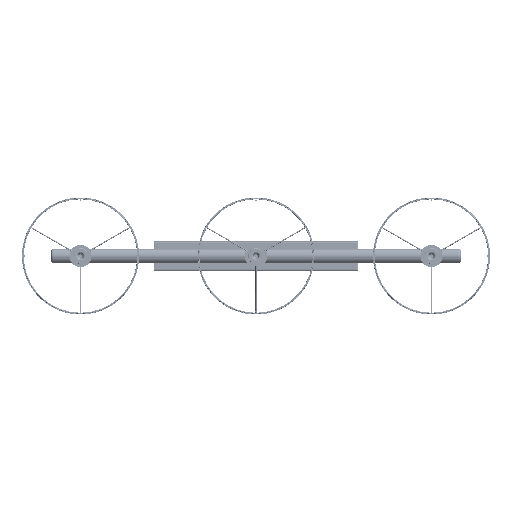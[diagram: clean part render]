
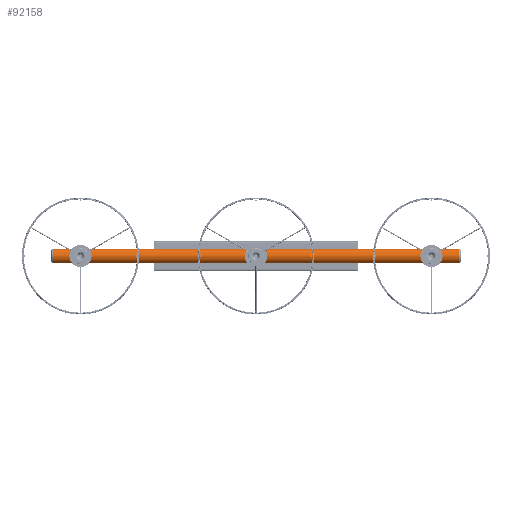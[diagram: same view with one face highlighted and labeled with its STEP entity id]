
A CAD part, front view. The second image highlights one B-rep face of the part: STEP entity #92158.
In plain terms, the highlighted cylindrical face has radius 12.5 mm (diameter 25 mm), a full revolution.
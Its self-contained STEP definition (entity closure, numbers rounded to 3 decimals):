
#15935=FACE_OUTER_BOUND('',#21825,.T.);
#21825=EDGE_LOOP('',(#83988,#83989,#83990,#83991,#83992));
#25843=LINE('',#375816,#29822);
#29822=VECTOR('',#124091,12.5);
#34222=CIRCLE('',#101941,12.5);
#34223=CIRCLE('',#101942,12.5);
#34224=CIRCLE('',#101944,12.5);
#43281=VERTEX_POINT('',#375808);
#43282=VERTEX_POINT('',#375810);
#43283=VERTEX_POINT('',#375814);
#56864=EDGE_CURVE('',#43281,#43282,#34222,.T.);
#56865=EDGE_CURVE('',#43282,#43281,#34223,.T.);
#56866=EDGE_CURVE('',#43283,#43283,#34224,.T.);
#56867=EDGE_CURVE('',#43283,#43282,#25843,.T.);
#83988=ORIENTED_EDGE('',*,*,#56866,.F.);
#83989=ORIENTED_EDGE('',*,*,#56867,.T.);
#83990=ORIENTED_EDGE('',*,*,#56864,.F.);
#83991=ORIENTED_EDGE('',*,*,#56865,.F.);
#83992=ORIENTED_EDGE('',*,*,#56867,.F.);
#86435=CYLINDRICAL_SURFACE('',#101943,12.5);
#92158=ADVANCED_FACE('',(#15935),#86435,.T.);
#101941=AXIS2_PLACEMENT_3D('',#375811,#124083,#124084);
#101942=AXIS2_PLACEMENT_3D('',#375812,#124085,#124086);
#101943=AXIS2_PLACEMENT_3D('',#375813,#124087,#124088);
#101944=AXIS2_PLACEMENT_3D('',#375815,#124089,#124090);
#124083=DIRECTION('center_axis',(-1.,0.,0.));
#124084=DIRECTION('ref_axis',(0.,0.,-1.));
#124085=DIRECTION('center_axis',(-1.,0.,0.));
#124086=DIRECTION('ref_axis',(0.,0.,-1.));
#124087=DIRECTION('center_axis',(1.,0.,0.));
#124088=DIRECTION('ref_axis',(0.,0.,-1.));
#124089=DIRECTION('center_axis',(1.,0.,0.));
#124090=DIRECTION('ref_axis',(0.,0.,-1.));
#124091=DIRECTION('',(-1.,0.,0.));
#375808=CARTESIAN_POINT('',(-347.,-864.798,-12.5));
#375810=CARTESIAN_POINT('',(-347.,-864.798,12.5));
#375811=CARTESIAN_POINT('Origin',(-347.,-864.798,0.));
#375812=CARTESIAN_POINT('Origin',(-347.,-864.798,0.));
#375813=CARTESIAN_POINT('Origin',(0.,-864.798,0.));
#375814=CARTESIAN_POINT('',(347.,-864.798,12.5));
#375815=CARTESIAN_POINT('Origin',(347.,-864.798,0.));
#375816=CARTESIAN_POINT('',(0.,-864.798,12.5));
